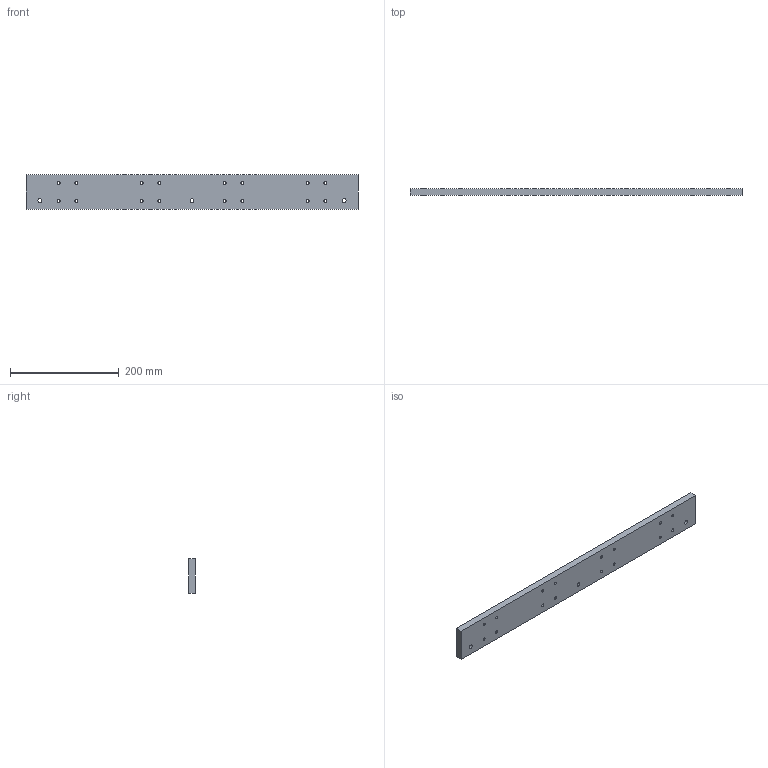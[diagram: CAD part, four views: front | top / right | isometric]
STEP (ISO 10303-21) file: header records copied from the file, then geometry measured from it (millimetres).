
FILE_DESCRIPTION (( 'STEP AP203' ), '1' );
FILE_NAME ('269-18-318.STEP', '2020-03-02T22:07:24', ( '' ), ( '' ), 'SwSTEP 2.0', 'SolidWorks 2017', '' );
FILE_SCHEMA (( 'CONFIG_CONTROL_DESIGN' ));
Length unit declared in the file: inch
Products named in the file (1): 269-18-318
Bounding box: 609.6 x 12.7 x 63.5 mm (x, y, z)
Volume: 485938.6 mm3; surface area: 97732.9 mm2
Topology: 1 solids, 1 shells, 44 faces, 126 edges, 84 vertices
Faces by surface type: cylinder 38, plane 6
Entity records: 1641 total; most frequent: DIRECTION 292, CARTESIAN_POINT 255, ORIENTED_EDGE 252, EDGE_CURVE 126, AXIS2_PLACEMENT_3D 121, VERTEX_POINT 84, EDGE_LOOP 82, CIRCLE 76
